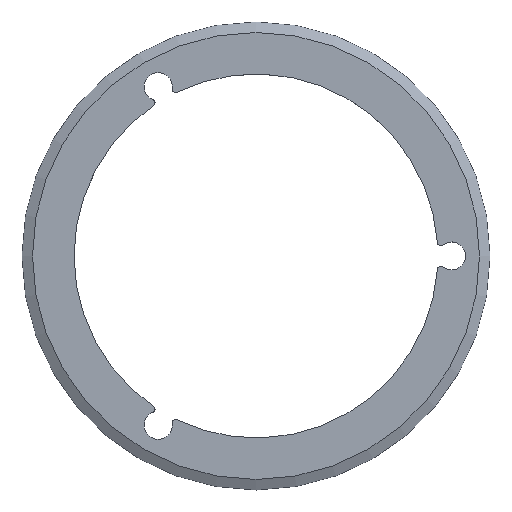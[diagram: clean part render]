
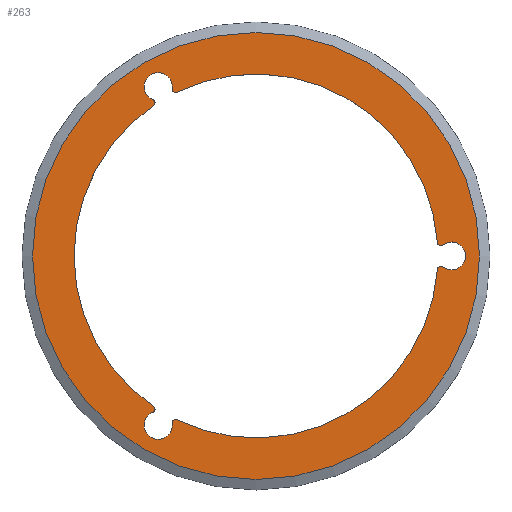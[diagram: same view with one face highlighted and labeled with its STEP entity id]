
A CAD part, top view. The second image highlights one B-rep face of the part: STEP entity #263.
In plain terms, the highlighted planar face has unit normal (0, 0, 1).
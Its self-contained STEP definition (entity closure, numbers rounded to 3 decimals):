
#50=ORIENTED_EDGE('',*,*,#128,.F.);
#51=ORIENTED_EDGE('',*,*,#129,.F.);
#52=ORIENTED_EDGE('',*,*,#130,.T.);
#53=ORIENTED_EDGE('',*,*,#131,.F.);
#54=ORIENTED_EDGE('',*,*,#132,.F.);
#55=ORIENTED_EDGE('',*,*,#133,.F.);
#56=ORIENTED_EDGE('',*,*,#134,.T.);
#57=ORIENTED_EDGE('',*,*,#135,.F.);
#58=ORIENTED_EDGE('',*,*,#136,.F.);
#59=ORIENTED_EDGE('',*,*,#137,.F.);
#60=ORIENTED_EDGE('',*,*,#138,.T.);
#61=ORIENTED_EDGE('',*,*,#139,.F.);
#62=ORIENTED_EDGE('',*,*,#140,.F.);
#128=EDGE_CURVE('',#167,#167,#194,.T.);
#129=EDGE_CURVE('',#168,#169,#195,.T.);
#130=EDGE_CURVE('',#168,#170,#196,.T.);
#131=EDGE_CURVE('',#171,#170,#197,.T.);
#132=EDGE_CURVE('',#172,#171,#198,.F.);
#133=EDGE_CURVE('',#173,#172,#199,.T.);
#134=EDGE_CURVE('',#173,#174,#200,.T.);
#135=EDGE_CURVE('',#175,#174,#201,.T.);
#136=EDGE_CURVE('',#176,#175,#202,.F.);
#137=EDGE_CURVE('',#177,#176,#203,.T.);
#138=EDGE_CURVE('',#177,#178,#204,.T.);
#139=EDGE_CURVE('',#179,#178,#205,.T.);
#140=EDGE_CURVE('',#169,#179,#206,.F.);
#167=VERTEX_POINT('',#438);
#168=VERTEX_POINT('',#440);
#169=VERTEX_POINT('',#441);
#170=VERTEX_POINT('',#443);
#171=VERTEX_POINT('',#445);
#172=VERTEX_POINT('',#447);
#173=VERTEX_POINT('',#449);
#174=VERTEX_POINT('',#451);
#175=VERTEX_POINT('',#453);
#176=VERTEX_POINT('',#455);
#177=VERTEX_POINT('',#457);
#178=VERTEX_POINT('',#459);
#179=VERTEX_POINT('',#461);
#194=CIRCLE('',#293,32.);
#195=CIRCLE('',#294,0.5);
#196=CIRCLE('',#295,26.05);
#197=CIRCLE('',#296,0.5);
#198=CIRCLE('',#297,2.005);
#199=CIRCLE('',#298,0.5);
#200=CIRCLE('',#299,26.05);
#201=CIRCLE('',#300,0.5);
#202=CIRCLE('',#301,2.005);
#203=CIRCLE('',#302,0.5);
#204=CIRCLE('',#303,26.05);
#205=CIRCLE('',#304,0.5);
#206=CIRCLE('',#305,2.005);
#221=EDGE_LOOP('',(#50));
#222=EDGE_LOOP('',(#51,#52,#53,#54,#55,#56,#57,#58,#59,#60,#61,#62));
#241=FACE_BOUND('',#221,.T.);
#242=FACE_BOUND('',#222,.T.);
#261=PLANE('',#292);
#263=ADVANCED_FACE('',(#241,#242),#261,.F.);
#292=AXIS2_PLACEMENT_3D('',#436,#337,#338);
#293=AXIS2_PLACEMENT_3D('',#437,#339,#340);
#294=AXIS2_PLACEMENT_3D('',#439,#341,#342);
#295=AXIS2_PLACEMENT_3D('',#442,#343,#344);
#296=AXIS2_PLACEMENT_3D('',#444,#345,#346);
#297=AXIS2_PLACEMENT_3D('',#446,#347,#348);
#298=AXIS2_PLACEMENT_3D('',#448,#349,#350);
#299=AXIS2_PLACEMENT_3D('',#450,#351,#352);
#300=AXIS2_PLACEMENT_3D('',#452,#353,#354);
#301=AXIS2_PLACEMENT_3D('',#454,#355,#356);
#302=AXIS2_PLACEMENT_3D('',#456,#357,#358);
#303=AXIS2_PLACEMENT_3D('',#458,#359,#360);
#304=AXIS2_PLACEMENT_3D('',#460,#361,#362);
#305=AXIS2_PLACEMENT_3D('',#462,#363,#364);
#337=DIRECTION('',(0.,0.,-1.));
#338=DIRECTION('',(-1.,0.,0.));
#339=DIRECTION('',(0.,0.,-1.));
#340=DIRECTION('',(-1.,0.,0.));
#341=DIRECTION('',(0.,0.,-1.));
#342=DIRECTION('',(-1.,0.,0.));
#343=DIRECTION('',(0.,0.,-1.));
#344=DIRECTION('',(-1.,0.,0.));
#345=DIRECTION('',(0.,0.,-1.));
#346=DIRECTION('',(-1.,0.,0.));
#347=DIRECTION('',(0.,0.,-1.));
#348=DIRECTION('',(-1.,0.,0.));
#349=DIRECTION('',(0.,0.,-1.));
#350=DIRECTION('',(-1.,0.,0.));
#351=DIRECTION('',(0.,0.,-1.));
#352=DIRECTION('',(-1.,0.,0.));
#353=DIRECTION('',(0.,0.,-1.));
#354=DIRECTION('',(-1.,0.,0.));
#355=DIRECTION('',(0.,0.,-1.));
#356=DIRECTION('',(-1.,0.,0.));
#357=DIRECTION('',(0.,0.,-1.));
#358=DIRECTION('',(-1.,0.,0.));
#359=DIRECTION('',(0.,0.,-1.));
#360=DIRECTION('',(-1.,0.,0.));
#361=DIRECTION('',(0.,0.,-1.));
#362=DIRECTION('',(-1.,0.,0.));
#363=DIRECTION('',(0.,0.,-1.));
#364=DIRECTION('',(-1.,0.,0.));
#436=CARTESIAN_POINT('',(0.,26.,1.5));
#437=CARTESIAN_POINT('',(0.,0.,1.5));
#438=CARTESIAN_POINT('',(-32.,0.,1.5));
#439=CARTESIAN_POINT('',(-11.516,23.922,1.5));
#440=CARTESIAN_POINT('',(-11.299,23.472,1.5));
#441=CARTESIAN_POINT('',(-12.012,23.987,1.5));
#442=CARTESIAN_POINT('',(0.,0.,1.5));
#443=CARTESIAN_POINT('',(25.977,1.95,1.5));
#444=CARTESIAN_POINT('',(26.475,1.988,1.5));
#445=CARTESIAN_POINT('',(26.78,1.591,1.5));
#446=CARTESIAN_POINT('',(28.,0.,1.5));
#447=CARTESIAN_POINT('',(26.78,-1.591,1.5));
#448=CARTESIAN_POINT('',(26.475,-1.988,1.5));
#449=CARTESIAN_POINT('',(25.977,-1.95,1.5));
#450=CARTESIAN_POINT('',(0.,0.,1.5));
#451=CARTESIAN_POINT('',(-11.299,-23.472,1.5));
#452=CARTESIAN_POINT('',(-11.516,-23.922,1.5));
#453=CARTESIAN_POINT('',(-12.012,-23.987,1.5));
#454=CARTESIAN_POINT('',(-14.,-24.249,1.5));
#455=CARTESIAN_POINT('',(-14.768,-22.397,1.5));
#456=CARTESIAN_POINT('',(-14.959,-21.935,1.5));
#457=CARTESIAN_POINT('',(-14.677,-21.522,1.5));
#458=CARTESIAN_POINT('',(0.,0.,1.5));
#459=CARTESIAN_POINT('',(-14.677,21.522,1.5));
#460=CARTESIAN_POINT('',(-14.959,21.935,1.5));
#461=CARTESIAN_POINT('',(-14.768,22.397,1.5));
#462=CARTESIAN_POINT('',(-14.,24.249,1.5));
